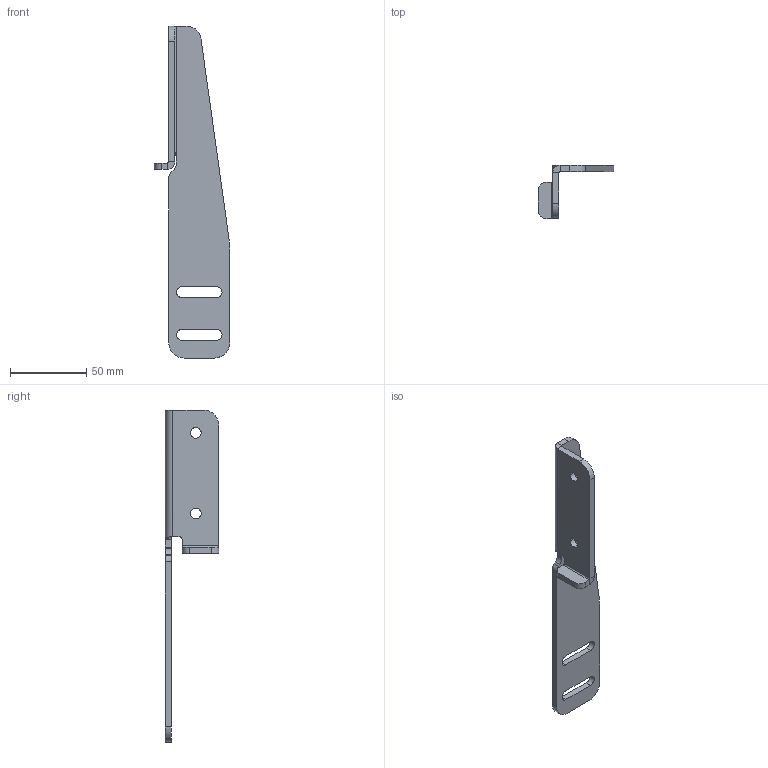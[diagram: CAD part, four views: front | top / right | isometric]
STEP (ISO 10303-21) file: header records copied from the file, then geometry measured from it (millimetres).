
FILE_DESCRIPTION(('CATIA V5 STEP Exchange'),'2;1');
FILE_NAME('F:\胡亚菊\工作\2020年设计申请单\陈丹\T031（任务号0463#）\3D\Symmetry of AK-ZPFJ02-L_WC-V3.stp','2020-06-03T07:39:01+00:00',('none'),('none'),'CATIA Version 5 Release 21 GA (IN-10)','CATIA V5 STEP AP203','none');
FILE_SCHEMA(('CONFIG_CONTROL_DESIGN'));
Length unit declared in the file: millimetre
Products named in the file (1): Symmetry of AK-ZPFJ02-L_WC-V3
Bounding box: 49.5 x 35 x 218 mm (x, y, z)
Volume: 38420.8 mm3; surface area: 22247.8 mm2
Topology: 1 solids, 1 shells, 57 faces, 149 edges, 94 vertices
Faces by surface type: plane 29, cylinder 27, bspline 1
Entity records: 1849 total; most frequent: CARTESIAN_POINT 424, ORIENTED_EDGE 298, DIRECTION 249, EDGE_CURVE 149, AXIS2_PLACEMENT_3D 101, VECTOR 94, LINE 94, VERTEX_POINT 94
